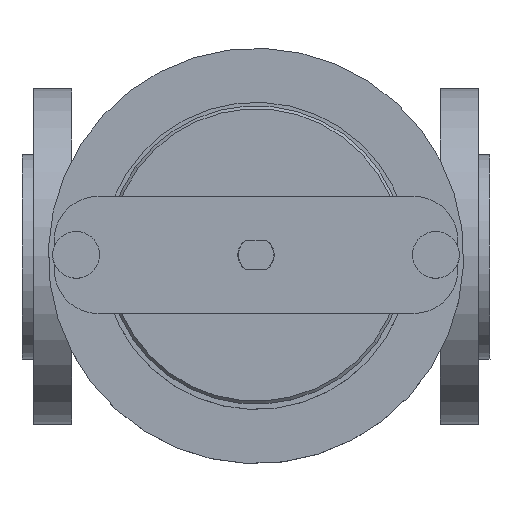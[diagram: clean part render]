
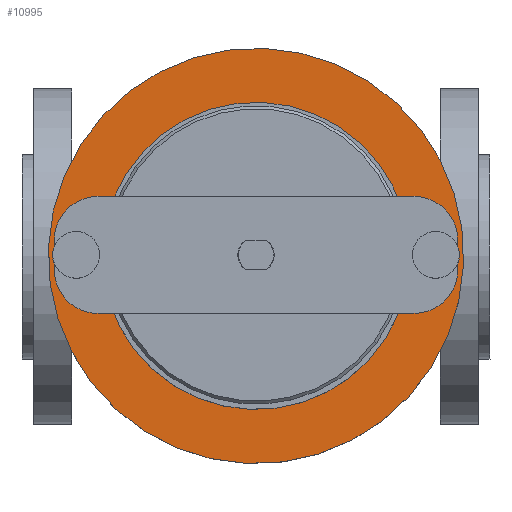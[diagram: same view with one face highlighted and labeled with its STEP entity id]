
A CAD part, top view. The second image highlights one B-rep face of the part: STEP entity #10995.
In plain terms, the highlighted planar face has unit normal (0, 0, 1).
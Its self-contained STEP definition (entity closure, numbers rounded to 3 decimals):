
#166 = VERTEX_POINT ( 'NONE', #13937 ) ;
#200 = FACE_BOUND ( 'NONE', #8461, .T. ) ;
#343 = AXIS2_PLACEMENT_3D ( 'NONE', #8507, #9769, #4190 ) ;
#488 = ORIENTED_EDGE ( 'NONE', *, *, #3634, .F. ) ;
#583 = ORIENTED_EDGE ( 'NONE', *, *, #13336, .T. ) ;
#725 = DIRECTION ( 'NONE',  ( 0., 0., -1. ) ) ;
#809 = FACE_OUTER_BOUND ( 'NONE', #6363, .T. ) ;
#894 = DIRECTION ( 'NONE',  ( 0., -1., 0. ) ) ;
#1093 = CARTESIAN_POINT ( 'NONE',  ( -63., 0., 129.5 ) ) ;
#1181 = VERTEX_POINT ( 'NONE', #6993 ) ;
#1692 = AXIS2_PLACEMENT_3D ( 'NONE', #7481, #11573, #15940 ) ;
#2146 = VERTEX_POINT ( 'NONE', #3807 ) ;
#2431 = DIRECTION ( 'NONE',  ( 0., 0., -1. ) ) ;
#2539 = CIRCLE ( 'NONE', #13915, 71. ) ;
#2911 = CIRCLE ( 'NONE', #14589, 71. ) ;
#3114 = VERTEX_POINT ( 'NONE', #11663 ) ;
#3587 = ORIENTED_EDGE ( 'NONE', *, *, #13923, .T. ) ;
#3634 = EDGE_CURVE ( 'NONE', #16292, #1181, #2911, .T. ) ;
#3807 = CARTESIAN_POINT ( 'NONE',  ( -1.5, 8., 129.5 ) ) ;
#3820 = DIRECTION ( 'NONE',  ( 0., 0., -1. ) ) ;
#3903 = DIRECTION ( 'NONE',  ( -1., 0., 0. ) ) ;
#4190 = DIRECTION ( 'NONE',  ( 0., 1., 0. ) ) ;
#4277 = DIRECTION ( 'NONE',  ( 0., 0., -1. ) ) ;
#4773 = CARTESIAN_POINT ( 'NONE',  ( -1.5, -8., 129.5 ) ) ;
#4897 = ORIENTED_EDGE ( 'NONE', *, *, #12380, .F. ) ;
#4963 = DIRECTION ( 'NONE',  ( 0., 0., -1. ) ) ;
#5163 = CIRCLE ( 'NONE', #1692, 52.5 ) ;
#5175 = CIRCLE ( 'NONE', #8997, 52.5 ) ;
#5636 = VERTEX_POINT ( 'NONE', #8481 ) ;
#6191 = CIRCLE ( 'NONE', #11126, 8. ) ;
#6363 = EDGE_LOOP ( 'NONE', ( #4897, #488 ) ) ;
#6727 = FACE_BOUND ( 'NONE', #15058, .T. ) ;
#6882 = EDGE_CURVE ( 'NONE', #2146, #9882, #16066, .T. ) ;
#6993 = CARTESIAN_POINT ( 'NONE',  ( 2.595, -27.171, 129.5 ) ) ;
#7048 = EDGE_CURVE ( 'NONE', #9882, #2146, #12863, .T. ) ;
#7272 = ORIENTED_EDGE ( 'NONE', *, *, #12147, .T. ) ;
#7481 = CARTESIAN_POINT ( 'NONE',  ( -63., 0., 129.5 ) ) ;
#7926 = DIRECTION ( 'NONE',  ( 0., 1., 0. ) ) ;
#8002 = EDGE_CURVE ( 'NONE', #9093, #166, #6191, .T. ) ;
#8136 = DIRECTION ( 'NONE',  ( 0., 1., 0. ) ) ;
#8230 = CARTESIAN_POINT ( 'NONE',  ( -63., 0., 129.5 ) ) ;
#8461 = EDGE_LOOP ( 'NONE', ( #16917, #13876 ) ) ;
#8481 = CARTESIAN_POINT ( 'NONE',  ( -83.091, -48.504, 129.5 ) ) ;
#8507 = CARTESIAN_POINT ( 'NONE',  ( -1.5, 0., 129.5 ) ) ;
#8997 = AXIS2_PLACEMENT_3D ( 'NONE', #1093, #3820, #3903 ) ;
#9093 = VERTEX_POINT ( 'NONE', #10369 ) ;
#9234 = DIRECTION ( 'NONE',  ( 0., 1., 0. ) ) ;
#9343 = DIRECTION ( 'NONE',  ( 0., 1., 0. ) ) ;
#9769 = DIRECTION ( 'NONE',  ( 0., 0., -1. ) ) ;
#9882 = VERTEX_POINT ( 'NONE', #4773 ) ;
#10369 = CARTESIAN_POINT ( 'NONE',  ( -124.5, -8., 129.5 ) ) ;
#10820 = EDGE_LOOP ( 'NONE', ( #583, #3587 ) ) ;
#10995 = ADVANCED_FACE ( 'NONE', ( #12689, #200, #6727, #809 ), #17561, .F. ) ;
#11126 = AXIS2_PLACEMENT_3D ( 'NONE', #12016, #725, #7926 ) ;
#11573 = DIRECTION ( 'NONE',  ( 0., 0., -1. ) ) ;
#11663 = CARTESIAN_POINT ( 'NONE',  ( -42.909, 48.504, 129.5 ) ) ;
#12016 = CARTESIAN_POINT ( 'NONE',  ( -124.5, 0., 129.5 ) ) ;
#12068 = CARTESIAN_POINT ( 'NONE',  ( -63., 0., 129.5 ) ) ;
#12147 = EDGE_CURVE ( 'NONE', #166, #9093, #14486, .T. ) ;
#12380 = EDGE_CURVE ( 'NONE', #1181, #16292, #2539, .T. ) ;
#12689 = FACE_BOUND ( 'NONE', #10820, .T. ) ;
#12863 = CIRCLE ( 'NONE', #343, 8. ) ;
#13336 = EDGE_CURVE ( 'NONE', #5636, #3114, #5163, .T. ) ;
#13434 = AXIS2_PLACEMENT_3D ( 'NONE', #17446, #4963, #14719 ) ;
#13876 = ORIENTED_EDGE ( 'NONE', *, *, #7048, .T. ) ;
#13915 = AXIS2_PLACEMENT_3D ( 'NONE', #8230, #4277, #8136 ) ;
#13923 = EDGE_CURVE ( 'NONE', #3114, #5636, #5175, .T. ) ;
#13937 = CARTESIAN_POINT ( 'NONE',  ( -124.5, 8., 129.5 ) ) ;
#14486 = CIRCLE ( 'NONE', #14775, 8. ) ;
#14589 = AXIS2_PLACEMENT_3D ( 'NONE', #12068, #17610, #9343 ) ;
#14719 = DIRECTION ( 'NONE',  ( 0., 1., 0. ) ) ;
#14775 = AXIS2_PLACEMENT_3D ( 'NONE', #17508, #16158, #9234 ) ;
#14927 = CARTESIAN_POINT ( 'NONE',  ( -63., 0., 129.5 ) ) ;
#15058 = EDGE_LOOP ( 'NONE', ( #7272, #16200 ) ) ;
#15473 = AXIS2_PLACEMENT_3D ( 'NONE', #14927, #2431, #894 ) ;
#15940 = DIRECTION ( 'NONE',  ( -1., 0., 0. ) ) ;
#16066 = CIRCLE ( 'NONE', #13434, 8. ) ;
#16158 = DIRECTION ( 'NONE',  ( 0., 0., -1. ) ) ;
#16200 = ORIENTED_EDGE ( 'NONE', *, *, #8002, .T. ) ;
#16292 = VERTEX_POINT ( 'NONE', #17782 ) ;
#16917 = ORIENTED_EDGE ( 'NONE', *, *, #6882, .T. ) ;
#17446 = CARTESIAN_POINT ( 'NONE',  ( -1.5, 0., 129.5 ) ) ;
#17508 = CARTESIAN_POINT ( 'NONE',  ( -124.5, 0., 129.5 ) ) ;
#17561 = PLANE ( 'NONE',  #15473 ) ;
#17610 = DIRECTION ( 'NONE',  ( 0., 0., -1. ) ) ;
#17782 = CARTESIAN_POINT ( 'NONE',  ( -128.595, 27.171, 129.5 ) ) ;
